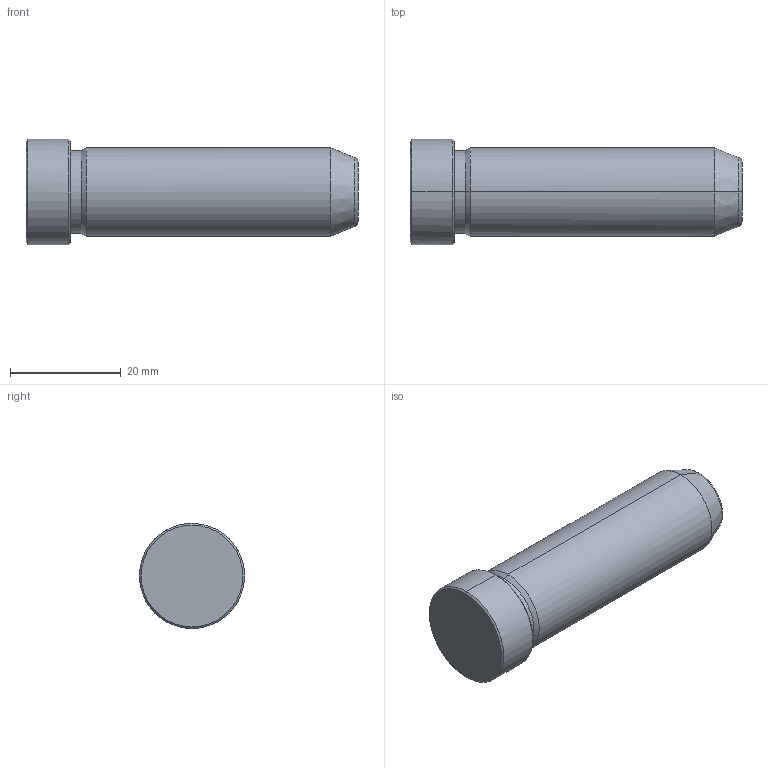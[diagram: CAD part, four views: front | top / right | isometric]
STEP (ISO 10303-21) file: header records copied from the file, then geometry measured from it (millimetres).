
FILE_DESCRIPTION(('CATIA V5 STEP Exchange'),'2;1');
FILE_NAME('C:\Users\Utente\Desktop\IO LAVORO\3D X SITO CF\X SITO\PLASTICA\549\549-16X60.stp','2021-12-11T09:35:43+00:00',('none'),('none'),'CATIA Version 5 Release 20 GA (IN-10)','CATIA V5 STEP AP203','none');
FILE_SCHEMA(('CONFIG_CONTROL_DESIGN'));
Length unit declared in the file: millimetre
Products named in the file (1): 549-16X60
Bounding box: 60 x 19 x 19 mm (x, y, z)
Volume: 12423.3 mm3; surface area: 3550.9 mm2
Topology: 1 solids, 1 shells, 19 faces, 56 edges, 40 vertices
Faces by surface type: cone 8, cylinder 6, plane 3, torus 2
Entity records: 736 total; most frequent: CARTESIAN_POINT 192, ORIENTED_EDGE 112, DIRECTION 86, EDGE_CURVE 56, AXIS2_PLACEMENT_3D 54, VERTEX_POINT 40, CIRCLE 34, EDGE_LOOP 20
